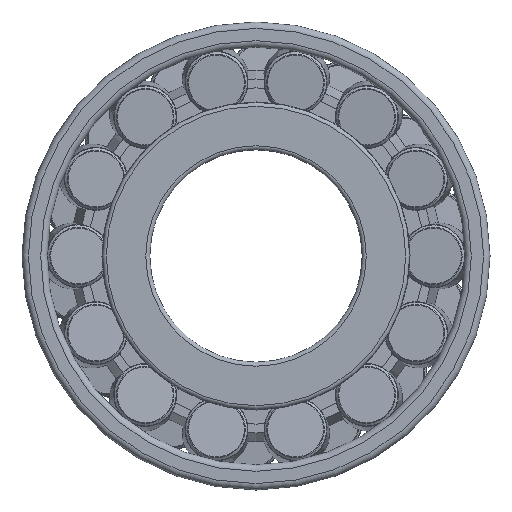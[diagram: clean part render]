
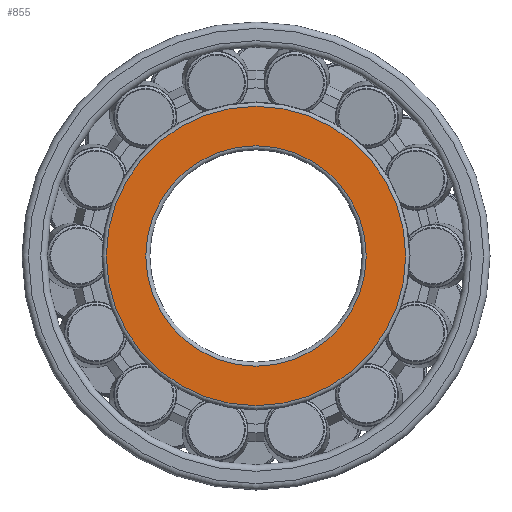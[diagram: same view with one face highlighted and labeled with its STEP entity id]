
A CAD part, left-side view. The second image highlights one B-rep face of the part: STEP entity #855.
In plain terms, the highlighted planar face has unit normal (-1, 0, 0).
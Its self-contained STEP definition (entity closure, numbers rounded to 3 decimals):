
#166=PLANE('',#944);
#216=CIRCLE('',#941,18.835);
#218=CIRCLE('',#945,25.583);
#285=FACE_BOUND('',#419,.T.);
#340=FACE_OUTER_BOUND('',#418,.T.);
#418=EDGE_LOOP('',(#738));
#419=EDGE_LOOP('',(#739));
#541=VERTEX_POINT('',#1877);
#543=VERTEX_POINT('',#1883);
#619=EDGE_CURVE('',#541,#541,#216,.T.);
#621=EDGE_CURVE('',#543,#543,#218,.T.);
#738=ORIENTED_EDGE('',*,*,#621,.F.);
#739=ORIENTED_EDGE('',*,*,#619,.F.);
#855=ADVANCED_FACE('',(#340,#285),#166,.T.);
#941=AXIS2_PLACEMENT_3D('',#1878,#1134,#1135);
#944=AXIS2_PLACEMENT_3D('',#1882,#1140,#1141);
#945=AXIS2_PLACEMENT_3D('',#1884,#1142,#1143);
#1134=DIRECTION('center_axis',(-1.,0.,0.));
#1135=DIRECTION('ref_axis',(0.,-1.,0.));
#1140=DIRECTION('center_axis',(-1.,0.,0.));
#1141=DIRECTION('ref_axis',(0.,0.,1.));
#1142=DIRECTION('center_axis',(1.,0.,0.));
#1143=DIRECTION('ref_axis',(0.,-1.,0.));
#1877=CARTESIAN_POINT('',(-11.5,18.835,0.));
#1878=CARTESIAN_POINT('Origin',(-11.5,0.,0.));
#1882=CARTESIAN_POINT('Origin',(-11.5,20.,0.));
#1883=CARTESIAN_POINT('',(-11.5,25.583,0.));
#1884=CARTESIAN_POINT('Origin',(-11.5,0.,0.));
